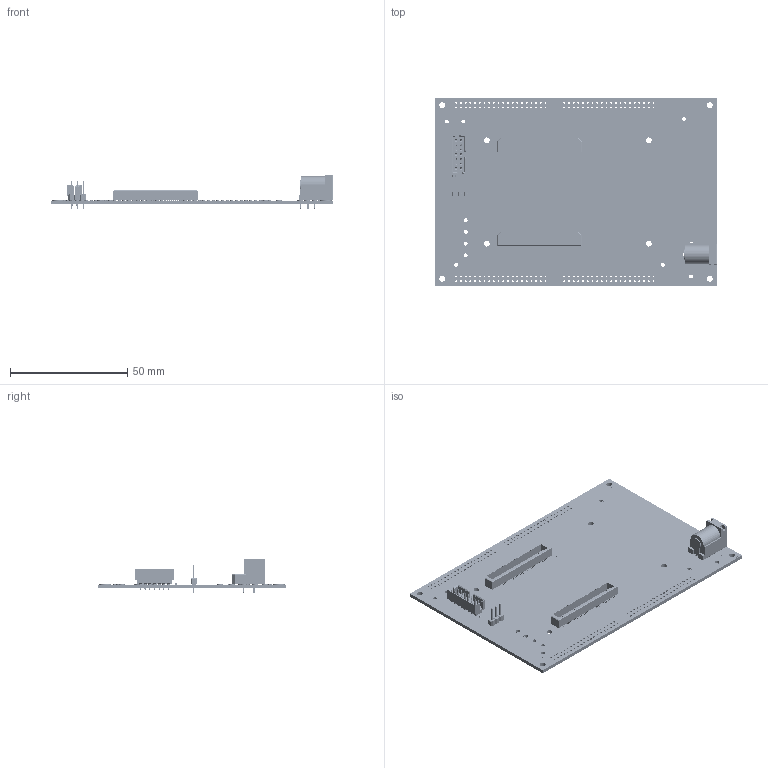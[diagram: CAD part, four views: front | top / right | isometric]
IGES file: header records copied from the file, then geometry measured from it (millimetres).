
Start section: SolidWorks IGES file using analytic representation for surfaces
Global section: file name: C:\work\zz\3D-Models\3D_OpalKelly\BRK7010\20161013\no-silk\BRK7010.IGS; native system: SolidWorks 2016; preprocessor: SolidWorks 2016; author: Nick Kettman; date: 161013.150208; units: inch
Bounding box: 120 x 80 x 14.82 mm (x, y, z)
Surface area: 26806.8 mm2 (no closed solid volume)
Topology: 0 solids, 0 shells, 7044 faces, 58560 edges, 58538 vertices
Faces by surface type: bspline 4982, revolution 2062
